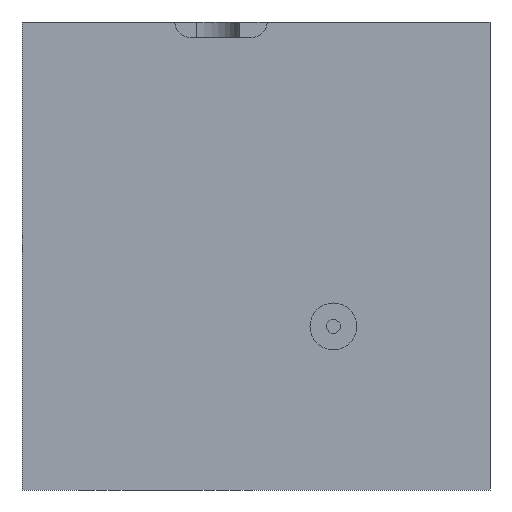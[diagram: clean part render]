
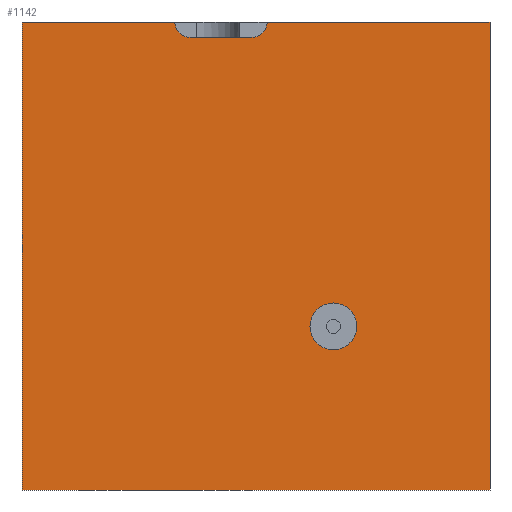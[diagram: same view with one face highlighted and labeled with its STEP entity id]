
A CAD part, front view. The second image highlights one B-rep face of the part: STEP entity #1142.
In plain terms, the highlighted planar face has unit normal (0, -1, 0).
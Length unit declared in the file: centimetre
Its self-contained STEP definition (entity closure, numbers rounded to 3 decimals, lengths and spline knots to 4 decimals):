
#23 = EDGE_CURVE ( 'NONE', #1292, #501, #1476, .T. ) ;
#57 = EDGE_CURVE ( 'NONE', #76, #1638, #1175, .T. ) ;
#72 = CARTESIAN_POINT ( 'NONE',  ( 665.4989, 0., 299.3583 ) ) ;
#76 = VERTEX_POINT ( 'NONE', #412 ) ;
#79 = CARTESIAN_POINT ( 'NONE',  ( 0., 0., 1000. ) ) ;
#115 = EDGE_CURVE ( 'NONE', #536, #872, #1607, .T. ) ;
#118 = ORIENTED_EDGE ( 'NONE', *, *, #57, .T. ) ;
#121 = DIRECTION ( 'NONE',  ( 0., 0., -1. ) ) ;
#125 = CIRCLE ( 'NONE', #1266, 32.8309 ) ;
#127 = CARTESIAN_POINT ( 'NONE',  ( 665.4989, 0., 399.6574 ) ) ;
#154 = EDGE_CURVE ( 'NONE', #872, #1046, #1618, .T. ) ;
#177 = VECTOR ( 'NONE', #214, 100. ) ;
#214 = DIRECTION ( 'NONE',  ( 1., 0., 0. ) ) ;
#223 = EDGE_LOOP ( 'NONE', ( #1044, #934 ) ) ;
#228 = ORIENTED_EDGE ( 'NONE', *, *, #776, .T. ) ;
#229 = VECTOR ( 'NONE', #1489, 100. ) ;
#273 = DIRECTION ( 'NONE',  ( 0., 0., -1. ) ) ;
#284 = EDGE_LOOP ( 'NONE', ( #1166, #307, #1110, #228, #118, #449, #1176, #1145 ) ) ;
#307 = ORIENTED_EDGE ( 'NONE', *, *, #1513, .F. ) ;
#333 = DIRECTION ( 'NONE',  ( 0., 0., 1. ) ) ;
#356 = CARTESIAN_POINT ( 'NONE',  ( 326.4828, 0., 1000. ) ) ;
#384 = CARTESIAN_POINT ( 'NONE',  ( 523.9564, 0., 1000. ) ) ;
#402 = CARTESIAN_POINT ( 'NONE',  ( 359.3138, 0., 1000. ) ) ;
#412 = CARTESIAN_POINT ( 'NONE',  ( 0., 0., 0. ) ) ;
#449 = ORIENTED_EDGE ( 'NONE', *, *, #1635, .F. ) ;
#452 = LINE ( 'NONE', #984, #229 ) ;
#459 = CARTESIAN_POINT ( 'NONE',  ( 491.1254, 0., 1000. ) ) ;
#465 = AXIS2_PLACEMENT_3D ( 'NONE', #1629, #626, #1141 ) ;
#478 = VERTEX_POINT ( 'NONE', #356 ) ;
#501 = VERTEX_POINT ( 'NONE', #72 ) ;
#513 = AXIS2_PLACEMENT_3D ( 'NONE', #539, #1067, #966 ) ;
#536 = VERTEX_POINT ( 'NONE', #1121 ) ;
#537 = DIRECTION ( 'NONE',  ( 0., 0., -1. ) ) ;
#538 = EDGE_CURVE ( 'NONE', #1405, #478, #452, .T. ) ;
#539 = CARTESIAN_POINT ( 'NONE',  ( 665.4989, 0., 349.5079 ) ) ;
#599 = CIRCLE ( 'NONE', #465, 50.1496 ) ;
#626 = DIRECTION ( 'NONE',  ( 0., -1., 0. ) ) ;
#678 = VERTEX_POINT ( 'NONE', #1129 ) ;
#685 = CARTESIAN_POINT ( 'NONE',  ( 0., 0., 1000. ) ) ;
#733 = CARTESIAN_POINT ( 'NONE',  ( 0., 0., 1000. ) ) ;
#776 = EDGE_CURVE ( 'NONE', #1405, #76, #1571, .T. ) ;
#840 = VECTOR ( 'NONE', #1456, 100. ) ;
#851 = VECTOR ( 'NONE', #988, 100. ) ;
#855 = DIRECTION ( 'NONE',  ( 0., -1., 0. ) ) ;
#856 = DIRECTION ( 'NONE',  ( 0., 1., 0. ) ) ;
#872 = VERTEX_POINT ( 'NONE', #1496 ) ;
#894 = AXIS2_PLACEMENT_3D ( 'NONE', #459, #855, #1361 ) ;
#934 = ORIENTED_EDGE ( 'NONE', *, *, #23, .F. ) ;
#966 = DIRECTION ( 'NONE',  ( 0., 0., -1. ) ) ;
#971 = EDGE_CURVE ( 'NONE', #501, #1292, #599, .T. ) ;
#984 = CARTESIAN_POINT ( 'NONE',  ( 0., 0., 1000. ) ) ;
#988 = DIRECTION ( 'NONE',  ( 1., 0., 0. ) ) ;
#1044 = ORIENTED_EDGE ( 'NONE', *, *, #971, .F. ) ;
#1046 = VERTEX_POINT ( 'NONE', #384 ) ;
#1067 = DIRECTION ( 'NONE',  ( 0., -1., 0. ) ) ;
#1088 = VECTOR ( 'NONE', #273, 100. ) ;
#1100 = PLANE ( 'NONE',  #1578 ) ;
#1107 = CARTESIAN_POINT ( 'NONE',  ( 359.3138, 0., 967.1691 ) ) ;
#1110 = ORIENTED_EDGE ( 'NONE', *, *, #538, .F. ) ;
#1119 = FACE_OUTER_BOUND ( 'NONE', #284, .T. ) ;
#1121 = CARTESIAN_POINT ( 'NONE',  ( 359.3138, 0., 967.1691 ) ) ;
#1129 = CARTESIAN_POINT ( 'NONE',  ( 1000., 0., 1000. ) ) ;
#1141 = DIRECTION ( 'NONE',  ( 0., 0., -1. ) ) ;
#1142 = ADVANCED_FACE ( 'NONE', ( #1465, #1119 ), #1100, .F. ) ;
#1145 = ORIENTED_EDGE ( 'NONE', *, *, #154, .F. ) ;
#1166 = ORIENTED_EDGE ( 'NONE', *, *, #115, .F. ) ;
#1175 = LINE ( 'NONE', #1336, #840 ) ;
#1176 = ORIENTED_EDGE ( 'NONE', *, *, #1200, .F. ) ;
#1200 = EDGE_CURVE ( 'NONE', #1046, #678, #1229, .T. ) ;
#1229 = LINE ( 'NONE', #79, #851 ) ;
#1266 = AXIS2_PLACEMENT_3D ( 'NONE', #402, #1300, #537 ) ;
#1292 = VERTEX_POINT ( 'NONE', #127 ) ;
#1300 = DIRECTION ( 'NONE',  ( 0., -1., 0. ) ) ;
#1336 = CARTESIAN_POINT ( 'NONE',  ( 0., 0., 0. ) ) ;
#1361 = DIRECTION ( 'NONE',  ( 0., 0., -1. ) ) ;
#1388 = CARTESIAN_POINT ( 'NONE',  ( 1000., 0., 0. ) ) ;
#1405 = VERTEX_POINT ( 'NONE', #1423 ) ;
#1423 = CARTESIAN_POINT ( 'NONE',  ( 0., 0., 1000. ) ) ;
#1455 = CARTESIAN_POINT ( 'NONE',  ( 1000., 0., 1000. ) ) ;
#1456 = DIRECTION ( 'NONE',  ( 1., 0., 0. ) ) ;
#1465 = FACE_BOUND ( 'NONE', #223, .T. ) ;
#1476 = CIRCLE ( 'NONE', #513, 50.1496 ) ;
#1478 = VECTOR ( 'NONE', #121, 100. ) ;
#1489 = DIRECTION ( 'NONE',  ( 1., 0., 0. ) ) ;
#1496 = CARTESIAN_POINT ( 'NONE',  ( 491.1254, 0., 967.1691 ) ) ;
#1513 = EDGE_CURVE ( 'NONE', #478, #536, #125, .T. ) ;
#1571 = LINE ( 'NONE', #685, #1088 ) ;
#1578 = AXIS2_PLACEMENT_3D ( 'NONE', #733, #856, #333 ) ;
#1607 = LINE ( 'NONE', #1107, #177 ) ;
#1618 = CIRCLE ( 'NONE', #894, 32.8309 ) ;
#1629 = CARTESIAN_POINT ( 'NONE',  ( 665.4989, 0., 349.5079 ) ) ;
#1635 = EDGE_CURVE ( 'NONE', #678, #1638, #1655, .T. ) ;
#1638 = VERTEX_POINT ( 'NONE', #1388 ) ;
#1655 = LINE ( 'NONE', #1455, #1478 ) ;
